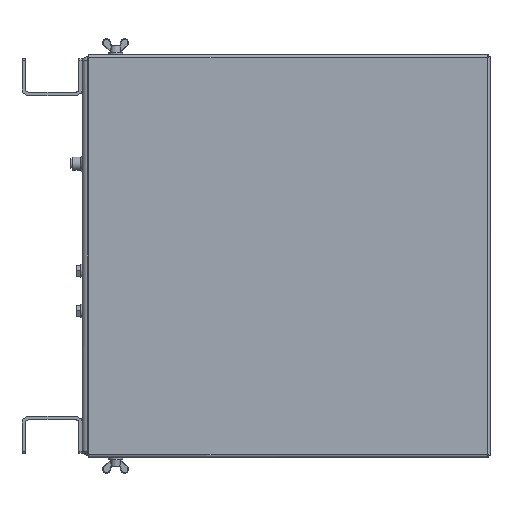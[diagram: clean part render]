
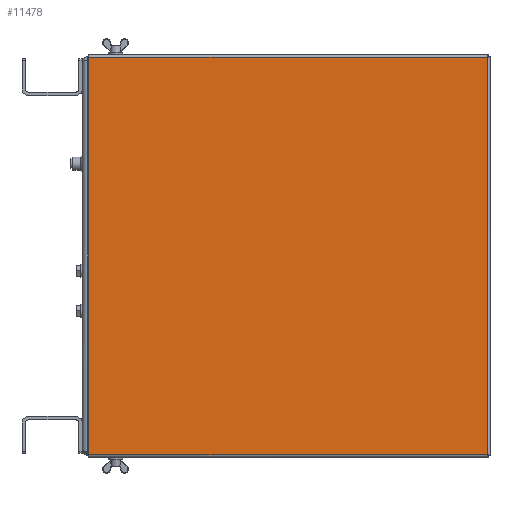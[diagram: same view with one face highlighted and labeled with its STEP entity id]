
A CAD part, front view. The second image highlights one B-rep face of the part: STEP entity #11478.
In plain terms, the highlighted planar face has unit normal (0, -1, 0).
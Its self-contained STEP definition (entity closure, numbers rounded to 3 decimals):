
#2401=FACE_OUTER_BOUND('',#3170,.T.);
#3170=EDGE_LOOP('',(#9297,#9298,#9299,#9300));
#3934=LINE('',#19363,#4682);
#3939=LINE('',#19448,#4687);
#3942=LINE('',#19491,#4690);
#3946=LINE('',#19538,#4694);
#4682=VECTOR('',#14680,594.);
#4687=VECTOR('',#14691,596.);
#4690=VECTOR('',#14706,596.);
#4694=VECTOR('',#14720,594.);
#5597=VERTEX_POINT('',#19356);
#5598=VERTEX_POINT('',#19362);
#5601=VERTEX_POINT('',#19447);
#5603=VERTEX_POINT('',#19489);
#6890=EDGE_CURVE('',#5598,#5597,#3934,.T.);
#6899=EDGE_CURVE('',#5601,#5598,#3939,.T.);
#6906=EDGE_CURVE('',#5597,#5603,#3942,.T.);
#6913=EDGE_CURVE('',#5603,#5601,#3946,.T.);
#9297=ORIENTED_EDGE('',*,*,#6890,.T.);
#9298=ORIENTED_EDGE('',*,*,#6906,.T.);
#9299=ORIENTED_EDGE('',*,*,#6913,.T.);
#9300=ORIENTED_EDGE('',*,*,#6899,.T.);
#10934=PLANE('',#12472);
#11478=ADVANCED_FACE('',(#2401),#10934,.F.);
#12472=AXIS2_PLACEMENT_3D('',#19537,#14718,#14719);
#14680=DIRECTION('',(0.,0.,1.));
#14691=DIRECTION('',(1.,0.,0.));
#14706=DIRECTION('',(-1.,0.,0.));
#14718=DIRECTION('center_axis',(0.,1.,0.));
#14719=DIRECTION('ref_axis',(0.,0.,1.));
#14720=DIRECTION('',(0.,0.,-1.));
#19356=CARTESIAN_POINT('',(425.,-143.,345.));
#19362=CARTESIAN_POINT('',(425.,-143.,-249.));
#19363=CARTESIAN_POINT('',(425.,-143.,-100.5));
#19447=CARTESIAN_POINT('',(-171.,-143.,-249.));
#19448=CARTESIAN_POINT('',(-21.,-143.,-249.));
#19489=CARTESIAN_POINT('',(-171.,-143.,345.));
#19491=CARTESIAN_POINT('',(277.,-143.,345.));
#19537=CARTESIAN_POINT('Origin',(129.,-143.,48.));
#19538=CARTESIAN_POINT('',(-171.,-143.,349.));
